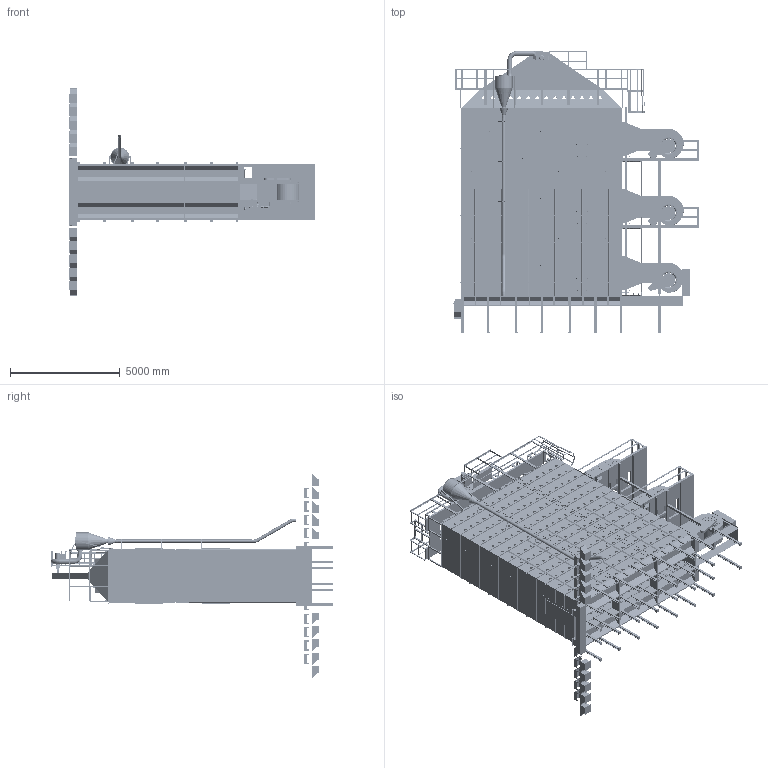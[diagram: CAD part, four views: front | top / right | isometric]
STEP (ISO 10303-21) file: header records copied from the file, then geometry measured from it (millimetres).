
FILE_DESCRIPTION(/* description */ ('PLAN AND ELEVATION VIEW FOR D24240 WITH ROOF & PRE-CLEANER'),/* implementation_level */ '2;1');
FILE_NAME(/* name */ 'C:\Engineering\Designs\Sales\Dryer\Workspaces\D24 All\D24240PC.stp',/* time_stamp */ '2025-01-07T09:44:38-06:00',/* author */ ('max.fleming'),/* organization */ (''),/* preprocessor_version */ 'ST-DEVELOPER v18.1',/* originating_system */ 'Autodesk Inventor 2022',/* authorisation */ '');
FILE_SCHEMA (('AUTOMOTIVE_DESIGN { 1 0 10303 214 3 1 1 }'));
Products named in the file (50): D24240PC; 24FT FRAME; 8FT MID FRAME; 8FT LHRH FRAME; 24FT ROOF GF; 8FTRoof GF MID; 8FTRoof GF LHRH; Tongue; Platform Support 1-T; 24FT BODY TIER; LH Body; MID Body; RH Body; LH Body_MIR2; MID Body_MIR1; RH Body_MIR2; Outside Splice; Trans & Blower; Screen Guard; Belt Shield; LP Fuel; Standard Size End Plenum Panels; Ladder 2' section; Platform; Stiffeners; 1 Tier Vertical Support; LP Inlet; 2401002; LP Middle Connection; F048484; F048470; F1715410; Liquid Propane Pipe; 8'' CROSS AUGER; 12'' CROSS DRAG; 24FT PRE CLEANER RH DIS; 24FT Pre Cleaner Grav Assy; Aspirator Blower CCW; Aspirator Blower; NEMA MOTOR 182T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
Assembly tree (230 placements, depth 4):
  D24240PC
    24FT FRAME
      8FT LHRH FRAME  x2
      8FT MID FRAME
    24FT ROOF GF
      8FTRoof GF LHRH  x2
      8FTRoof GF MID
    Tongue
    Platform Support 1-T
    24FT BODY TIER  x14
      LH Body
      MID Body
      RH Body
      LH Body_MIR2
      MID Body_MIR1
      RH Body_MIR2
      Outside Splice
    Trans & Blower  x3
    Screen Guard  x6
    Belt Shield  x3
    LP Fuel  x3
    Standard Size End Plenum Panels  x25
    Platform  x2
    Stiffeners  x96
    1 Tier Vertical Support  x18
    LP Inlet
    2401002
    LP Middle Connection
      F048484
      F048470
      F1715410
    Liquid Propane Pipe  x10
    24FT PRE CLEANER RH DIS
      24FT Pre Cleaner Grav Assy
      Aspirator Blower CCW
        Aspirator Blower
        NEMA MOTOR 182T
      24FT FULL CATWALK W PRE CLEANER MOUNTS
      Pre-Cleaner Cyclone
      24FT Aspirator 8in Pipe
    Ladder Cage
    6IN ELBOW  x2
    6in PIPE 60L  x5
    6IN HANGER  x4
    6in PIPE SLEEVE 11L
    PIPE SUPPORT  x3
  Ladder 2' section
  8'' CROSS AUGER
  12'' CROSS DRAG
  Leg Kit 24 24T 4'
Bounding box: 11201.4 x 12813.6 x 9423.4 mm (x, y, z)
Volume: 110186110688.6 mm3; surface area: 1600883591.2 mm2
Topology: 838 solids, 1074 shells, 59837 faces, 155085 edges, 99274 vertices
Faces by surface type: plane 29190, cylinder 17321, bspline 5624, cone 5033, torus 2396, sphere 273
Full cylindrical faces by diameter (mm): 1 x15, 1.651 x9, 1.753 x9, 1.778 x18, 2.019 x6, 2.108 x3, 2.286 x36, 2.489 x3, 2.54 x6, 3.091 x432, 3.175 x7, 3.251 x30, 3.306 x432, 3.522 x3, 3.658 x42, 3.8 x24, 4 x576, 4.039 x30, 4.166 x384, 4.191 x6, 4.229 x3, 4.267 x3, 4.369 x12, 4.445 x12, 4.701 x888, 4.762 x24, 4.851 x12, 4.928 x48, 5.283 x3, 5.527 x30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
Entity records: 826053 total; most frequent: CARTESIAN_POINT 351367, ORIENTED_EDGE 98898, DIRECTION 88964, EDGE_CURVE 49589, VERTEX_POINT 31773, AXIS2_PLACEMENT_3D 29856, LINE 29252, VECTOR 29252
